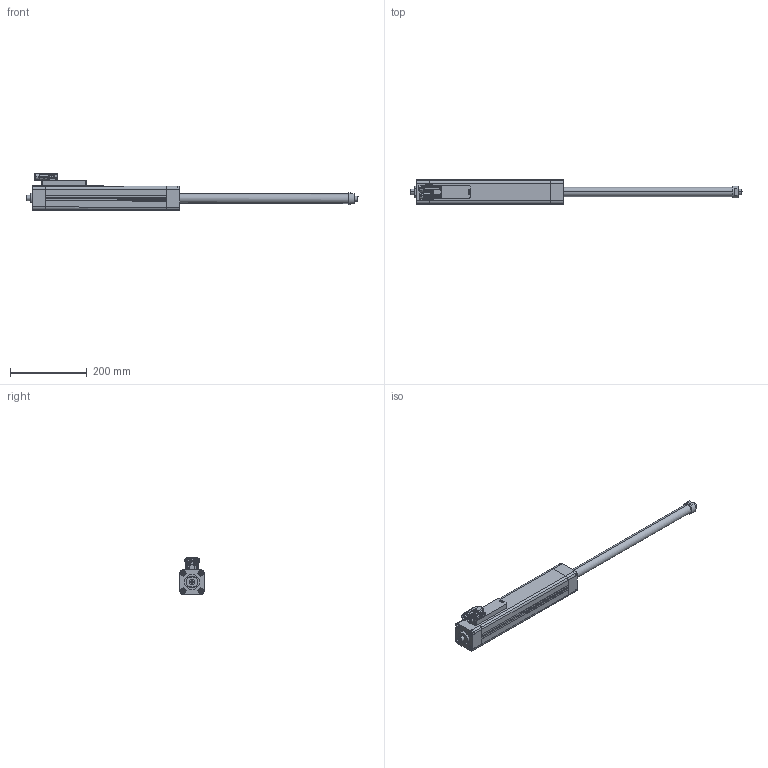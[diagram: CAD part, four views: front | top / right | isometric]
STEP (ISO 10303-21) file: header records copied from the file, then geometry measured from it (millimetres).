
FILE_DESCRIPTION(('STEP AP214'),'1');
FILE_NAME('ETT050S3CSGN0450C.stp','2014-12-18T08:39:48',(' '),(' '),'Spatial InterOp 3D',' ',' ');
FILE_SCHEMA(('automotive_design'));
Length unit declared in the file: millimetre
Products named in the file (27): ETT050S3CSGN0450C; Ass eth50 3 vuoto; ETH050 3.1; TAPPO NORMALE; TAPPO; Scatola; Vite M3 lunga; Connettore a y a blocchi; Pin; Vite; Pallino verde; Pallino arancione; Frutto verde; Frutto arancione; Corpo connettore; Vite M3scheda -tappo; cuscinetto; viti parker; riempitivo; Slider FINTO F-F
Assembly tree (36 placements, depth 3):
  ETT050S3CSGN0450C
    Ass eth50 3 vuoto
    ETH050 3.1
    TAPPO NORMALE
    TAPPO
    Scatola
    Vite M3 lunga  x4
    Connettore a y a blocchi
      Pin
      Vite
      Pallino verde
      Pallino arancione
      Frutto verde
      Frutto arancione
      Corpo connettore
    Vite M3scheda -tappo  x4
    cuscinetto  x2
    viti parker
    viti parker
    viti parker
    viti parker
    viti parker
    viti parker
    viti parker
    viti parker
    riempitivo  x4
    Slider FINTO F-F
Bounding box: 867.03 x 63.5 x 97.6 mm (x, y, z)
Volume: 1430480.6 mm3; surface area: 400870.7 mm2
Topology: 27 solids, 1874 shells, 2494 faces, 10268 edges, 9689 vertices
Faces by surface type: cylinder 1032, plane 702, bspline 288, torus 262, cone 95, extrusion 68, sphere 47
Entity records: 162114 total; most frequent: CARTESIAN_POINT 60096, DIRECTION 14553, ORIENTED_EDGE 10283, EDGE_CURVE 9369, VERTEX_POINT 9067, AXIS2_PLACEMENT_3D 5573, STYLED_ITEM 3519, PRESENTATION_STYLE_ASSIGNMENT 3519
